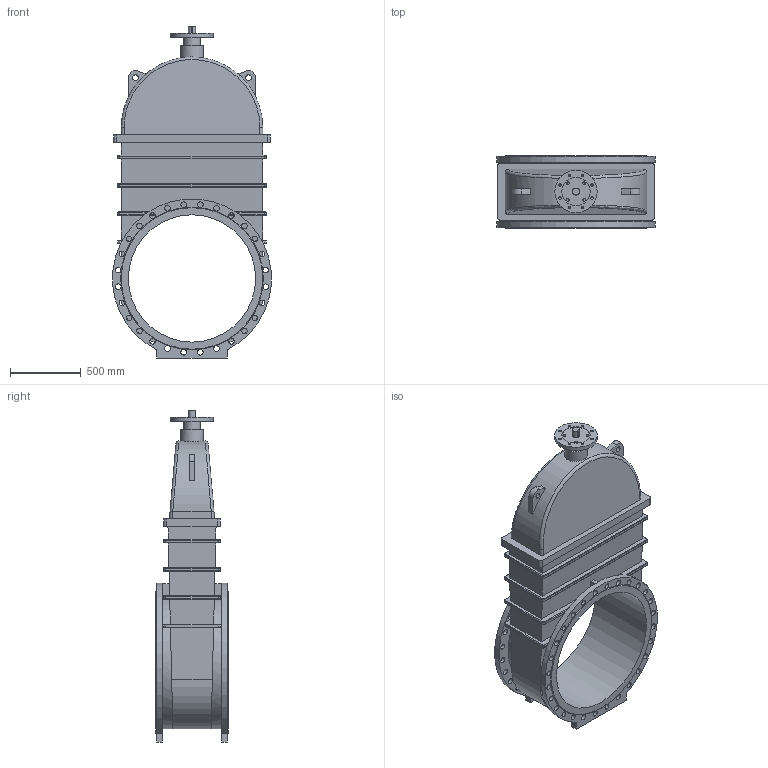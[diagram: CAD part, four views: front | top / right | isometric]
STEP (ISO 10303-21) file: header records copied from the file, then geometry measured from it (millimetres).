
FILE_DESCRIPTION(('STEP AP203'), '1');
FILE_NAME('Çàäâèæêà 47GVA.Z DN900 PN16 áåç èñïîëíèò. ìåõ.', '', ('UNSPECIFIED'), ('UNSPECIFIED'), 'ASCON STEP Converter 1.6', 'ASCON Math Kernel', '');
FILE_SCHEMA(('CONFIG_CONTROL_DESIGN'));
Length unit declared in the file: millimetre
Bounding box: 1122.05 x 510 x 2347.5 mm (x, y, z)
Volume: 432537272.1 mm3; surface area: 8623685.7 mm2
Topology: 1 solids, 1 shells, 308 faces, 784 edges, 498 vertices
Faces by surface type: cylinder 157, plane 111, bspline 38, cone 2
Full cylindrical faces by diameter (mm): 18 x8, 20 x4, 40 x58, 50 x1, 120 x1, 160 x1, 200 x1, 300 x1, 900 x1
Entity records: 15644 total; most frequent: CARTESIAN_POINT 5944, ORIENTED_EDGE 1412, DIRECTION 1395, EDGE_CURVE 706, EDGE_LOOP 548, AXIS2_PLACEMENT_3D 536, VERTEX_POINT 498, FACE_BOUND 393
